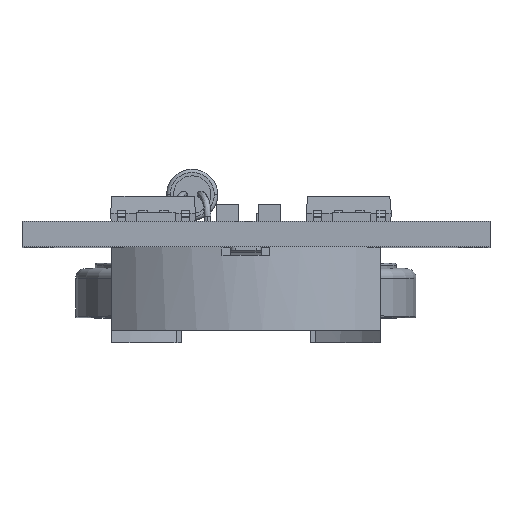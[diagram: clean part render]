
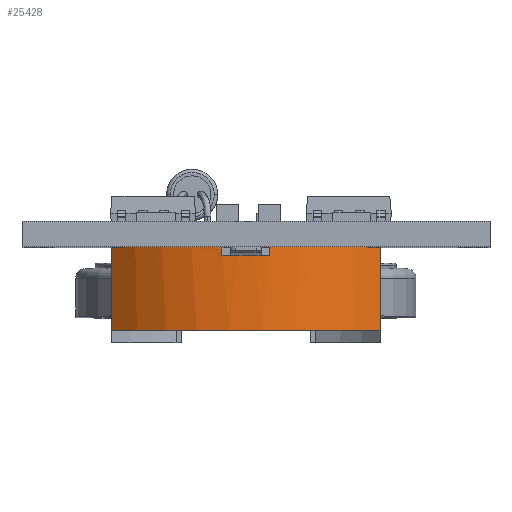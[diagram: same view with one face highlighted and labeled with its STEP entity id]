
A CAD part, top view. The second image highlights one B-rep face of the part: STEP entity #25428.
In plain terms, the highlighted cylindrical face has radius 11.25 mm (diameter 22.5 mm), a partial arc.
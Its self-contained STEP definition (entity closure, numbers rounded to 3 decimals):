
#2984 = ORIENTED_EDGE ( 'NONE', *, *, #65862, .T. ) ;
#4164 = DIRECTION ( 'NONE',  ( 0., 1., 0. ) ) ;
#4376 = VECTOR ( 'NONE', #57970, 1000. ) ;
#4540 = DIRECTION ( 'NONE',  ( 0., 1., 0. ) ) ;
#5361 = FACE_OUTER_BOUND ( 'NONE', #98979, .T. ) ;
#6887 = LINE ( 'NONE', #44208, #92099 ) ;
#7049 = DIRECTION ( 'NONE',  ( 0., 0., -1. ) ) ;
#9265 = AXIS2_PLACEMENT_3D ( 'NONE', #91277, #83910, #7049 ) ;
#9498 = LINE ( 'NONE', #50530, #88814 ) ;
#9552 = AXIS2_PLACEMENT_3D ( 'NONE', #95656, #85252, #77872 ) ;
#11403 = CIRCLE ( 'NONE', #75692, 11.25 ) ;
#13235 = EDGE_CURVE ( 'NONE', #28635, #81887, #46864, .T. ) ;
#14199 = DIRECTION ( 'NONE',  ( 0., 1., 0. ) ) ;
#16983 = ORIENTED_EDGE ( 'NONE', *, *, #98726, .F. ) ;
#19362 = CARTESIAN_POINT ( 'NONE',  ( -7.9, 0., 8.01 ) ) ;
#24290 = ORIENTED_EDGE ( 'NONE', *, *, #61784, .T. ) ;
#24760 = LINE ( 'NONE', #83260, #4376 ) ;
#25428 = ADVANCED_FACE ( 'NONE', ( #5361 ), #52252, .T. ) ;
#25560 = LINE ( 'NONE', #55803, #31581 ) ;
#28635 = VERTEX_POINT ( 'NONE', #19362 ) ;
#29664 = CARTESIAN_POINT ( 'NONE',  ( 1.4, 0.5, 11.163 ) ) ;
#31216 = CARTESIAN_POINT ( 'NONE',  ( -1.4, 0.5, 11.163 ) ) ;
#31581 = VECTOR ( 'NONE', #64863, 1000. ) ;
#32123 = ORIENTED_EDGE ( 'NONE', *, *, #94559, .F. ) ;
#34840 = ORIENTED_EDGE ( 'NONE', *, *, #97651, .T. ) ;
#35561 = VERTEX_POINT ( 'NONE', #31216 ) ;
#37668 = EDGE_CURVE ( 'NONE', #35561, #39327, #11403, .T. ) ;
#39327 = VERTEX_POINT ( 'NONE', #29664 ) ;
#41324 = EDGE_CURVE ( 'NONE', #95313, #47170, #82564, .T. ) ;
#44208 = CARTESIAN_POINT ( 'NONE',  ( 7.9, -16.366, 8.01 ) ) ;
#46864 = CIRCLE ( 'NONE', #9552, 11.25 ) ;
#47170 = VERTEX_POINT ( 'NONE', #63807 ) ;
#47276 = DIRECTION ( 'NONE',  ( 0., 1., 0. ) ) ;
#47916 = ORIENTED_EDGE ( 'NONE', *, *, #37668, .T. ) ;
#50530 = CARTESIAN_POINT ( 'NONE',  ( -1.4, 5.6, 11.163 ) ) ;
#52252 = CYLINDRICAL_SURFACE ( 'NONE', #9265, 11.25 ) ;
#55803 = CARTESIAN_POINT ( 'NONE',  ( 1.4, 5.6, 11.163 ) ) ;
#57970 = DIRECTION ( 'NONE',  ( 0., 1., 0. ) ) ;
#61784 = EDGE_CURVE ( 'NONE', #47170, #75739, #6887, .T. ) ;
#62354 = CARTESIAN_POINT ( 'NONE',  ( 7.9, 4.9, 8.01 ) ) ;
#63807 = CARTESIAN_POINT ( 'NONE',  ( 7.9, 0., 8.01 ) ) ;
#64863 = DIRECTION ( 'NONE',  ( 0., -1., 0. ) ) ;
#65584 = DIRECTION ( 'NONE',  ( 0., 0., 1. ) ) ;
#65862 = EDGE_CURVE ( 'NONE', #39327, #95313, #25560, .T. ) ;
#67019 = DIRECTION ( 'NONE',  ( 0., 1., 0. ) ) ;
#67083 = CARTESIAN_POINT ( 'NONE',  ( -1.4, 0., 11.163 ) ) ;
#73050 = ORIENTED_EDGE ( 'NONE', *, *, #13235, .T. ) ;
#75692 = AXIS2_PLACEMENT_3D ( 'NONE', #93243, #47276, #81198 ) ;
#75739 = VERTEX_POINT ( 'NONE', #62354 ) ;
#75971 = AXIS2_PLACEMENT_3D ( 'NONE', #91733, #14199, #75997 ) ;
#75997 = DIRECTION ( 'NONE',  ( 0., 0., 1. ) ) ;
#77872 = DIRECTION ( 'NONE',  ( 0., 0., 1. ) ) ;
#81198 = DIRECTION ( 'NONE',  ( 0., 0., 1. ) ) ;
#81887 = VERTEX_POINT ( 'NONE', #67083 ) ;
#81935 = ORIENTED_EDGE ( 'NONE', *, *, #41324, .T. ) ;
#82564 = CIRCLE ( 'NONE', #75971, 11.25 ) ;
#83260 = CARTESIAN_POINT ( 'NONE',  ( -7.9, -16.366, 8.01 ) ) ;
#83910 = DIRECTION ( 'NONE',  ( 0., -1., 0. ) ) ;
#85252 = DIRECTION ( 'NONE',  ( 0., 1., 0. ) ) ;
#88814 = VECTOR ( 'NONE', #4540, 1000. ) ;
#89049 = CIRCLE ( 'NONE', #98247, 11.25 ) ;
#90869 = CARTESIAN_POINT ( 'NONE',  ( -7.9, 4.9, 8.01 ) ) ;
#91277 = CARTESIAN_POINT ( 'NONE',  ( 0., 5.6, 0. ) ) ;
#91732 = VERTEX_POINT ( 'NONE', #90869 ) ;
#91733 = CARTESIAN_POINT ( 'NONE',  ( 0., 0., 0. ) ) ;
#92099 = VECTOR ( 'NONE', #67019, 1000. ) ;
#93243 = CARTESIAN_POINT ( 'NONE',  ( 0., 0.5, 0. ) ) ;
#94559 = EDGE_CURVE ( 'NONE', #91732, #75739, #89049, .T. ) ;
#94590 = CARTESIAN_POINT ( 'NONE',  ( 1.4, 0., 11.163 ) ) ;
#95313 = VERTEX_POINT ( 'NONE', #94590 ) ;
#95656 = CARTESIAN_POINT ( 'NONE',  ( 0., 0., 0. ) ) ;
#96174 = CARTESIAN_POINT ( 'NONE',  ( 0., 4.9, 0. ) ) ;
#97651 = EDGE_CURVE ( 'NONE', #81887, #35561, #9498, .T. ) ;
#98247 = AXIS2_PLACEMENT_3D ( 'NONE', #96174, #4164, #65584 ) ;
#98726 = EDGE_CURVE ( 'NONE', #28635, #91732, #24760, .T. ) ;
#98979 = EDGE_LOOP ( 'NONE', ( #73050, #34840, #47916, #2984, #81935, #24290, #32123, #16983 ) ) ;
